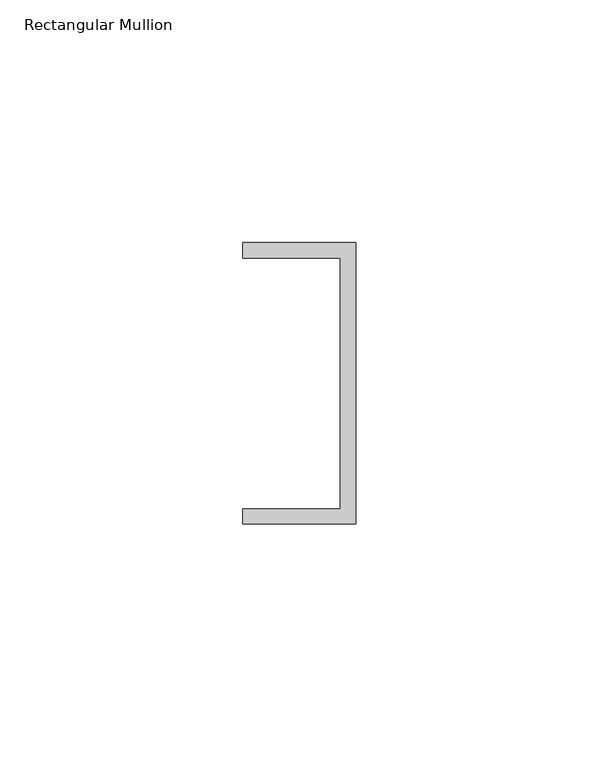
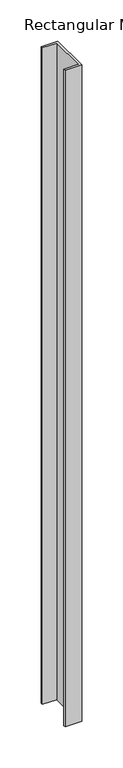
"""IFC4 building model written with IfcOpenShell, lengths in millimetres: member geometry, Rectangular Mullion : Frame-Teknion-Altos-Base_Channel."""

from ifc_helpers import new_model, si_unit, frame, origin, place, context, project, spatial, polyline, outline, extrude, source, transform, mapped, element, save


def rectangular_mullion_1fbba104(model_context):
    return source(origin(), model_context, "Body", "SweptSolid", [
        extrude(outline(polyline([(0.0, 29.0214844), (0.0, -29.0214844), (-23.3164063, -29.0214844), (-23.3164063, -25.8464844), (-3.175, -25.8464844), (-3.175, 25.8464844), (-23.3164063, 25.8464844), (-23.3164063, 29.0214844), (0.0, 29.0214844)])), frame((0.0, 0.0, -974.0304687), z_axis=(0.0, 0.0, 1.0), x_axis=(1.0, 0.0, 0.0)), (0.0, 0.0, 1.0), 974.0304687),
    ])


if __name__ == "__main__":
    model = new_model("IFC4")
    model_context = context("Model", 3, world=origin())
    ifc_project = project(units=[si_unit("LENGTHUNIT", "METRE", prefix="MILLI")], contexts=[model_context])
    site = spatial("IfcSite", under=ifc_project)
    building = spatial("IfcBuilding", under=site)
    placement = place(None, origin())
    rectangular_mullion_shape = rectangular_mullion_1fbba104(model_context)
    element("IfcMember", 1, ObjectType="Rectangular Mullion : Frame-Teknion-Altos-Base_Channel", at=placement, inside=building, context=model_context, shape_type="MappedRepresentation", body=[
        mapped(rectangular_mullion_shape, transform((0.0, 0.0, 0.0), x_axis=(1.0, 0.0, 0.0), y_axis=(0.0, 1.0, 0.0), z_axis=(0.0, 0.0, 1.0))),
    ])
    save(model, "model.ifc")
